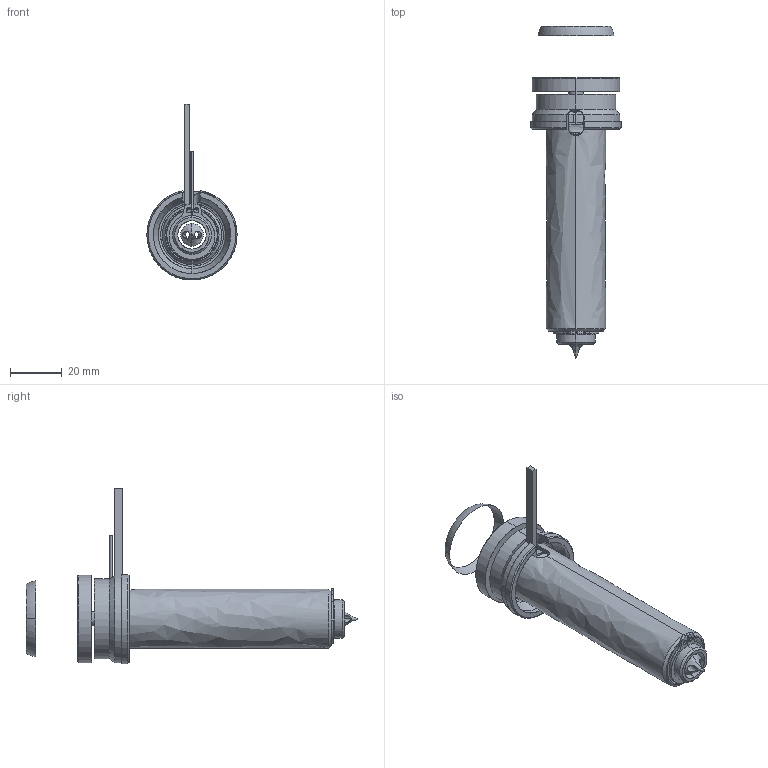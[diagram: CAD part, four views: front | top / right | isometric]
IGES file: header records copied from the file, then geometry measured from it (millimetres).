
Start section: SolidWorks IGES file using analytic representation for surfaces
Global section: file name: C:\Users\luca.EMPAD\Desktop\TEM\UGDL2602-M-A [Øf=0.3 ØC=5.5].IGS; native system: SolidWorks 2012; preprocessor: SolidWorks 2012; author: luca; date: 120330.144938; units: millimetre
Bounding box: 35 x 128.84 x 68.3 mm (x, y, z)
Surface area: 27048.6 mm2 (no closed solid volume)
Topology: 0 solids, 0 shells, 130 faces, 2120 edges, 2116 vertices
Faces by surface type: revolution 76, bspline 54
